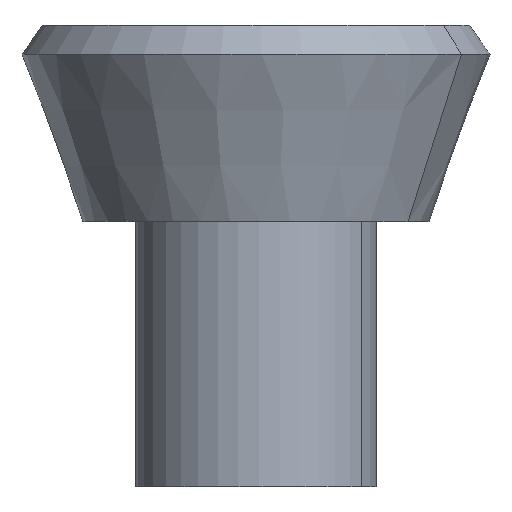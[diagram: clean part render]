
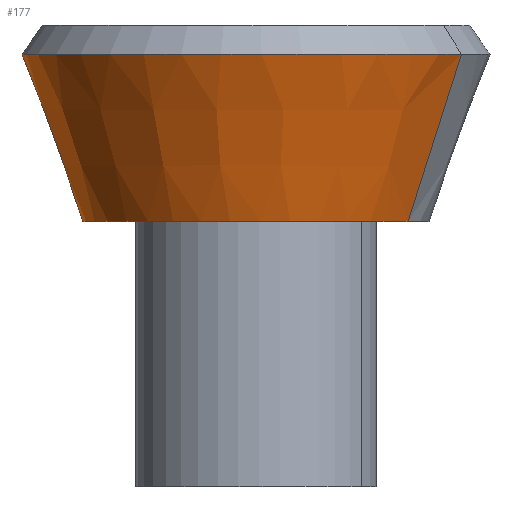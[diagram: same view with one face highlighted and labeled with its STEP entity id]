
A CAD part, top view. The second image highlights one B-rep face of the part: STEP entity #177.
In plain terms, the highlighted conical face has half-angle 20 degrees and reference radius 98 mm.
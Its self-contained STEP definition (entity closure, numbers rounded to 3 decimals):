
#114=CARTESIAN_POINT('Axis2P3D Location',(0.,0.,0.)) ;
#118=CARTESIAN_POINT('Vertex',(86.003,0.,46.984)) ;
#120=CARTESIAN_POINT('Vertex',(-86.003,0.,-46.984)) ;
#147=CARTESIAN_POINT('Axis2P3D Location',(0.,0.,0.)) ;
#152=CARTESIAN_POINT('Line Origine',(101.096,47.25,55.229)) ;
#156=CARTESIAN_POINT('Vertex',(116.188,94.501,63.474)) ;
#159=CARTESIAN_POINT('Axis2P3D Location',(0.,94.501,0.)) ;
#163=CARTESIAN_POINT('Vertex',(-116.188,94.501,-63.474)) ;
#166=CARTESIAN_POINT('Line Origine',(-101.096,47.25,-55.229)) ;
#115=DIRECTION('Axis2P3D Direction',(0.,-1.,0.)) ;
#148=DIRECTION('Axis2P3D Direction',(0.,1.,-0.)) ;
#149=DIRECTION('Axis2P3D XDirection',(0.878,0.,0.479)) ;
#153=DIRECTION('Vector Direction',(0.3,0.94,0.164)) ;
#160=DIRECTION('Axis2P3D Direction',(0.,1.,0.)) ;
#167=DIRECTION('Vector Direction',(-0.3,0.94,-0.164)) ;
#116=AXIS2_PLACEMENT_3D('Circle Axis2P3D',#114,#115,$) ;
#150=AXIS2_PLACEMENT_3D('Cone Axis2P3D',#147,#148,#149) ;
#161=AXIS2_PLACEMENT_3D('Circle Axis2P3D',#159,#160,$) ;
#172=ORIENTED_EDGE('',*,*,#122,.F.) ;
#173=ORIENTED_EDGE('',*,*,#158,.T.) ;
#174=ORIENTED_EDGE('',*,*,#165,.T.) ;
#175=ORIENTED_EDGE('',*,*,#170,.F.) ;
#154=VECTOR('Line Direction',#153,1.) ;
#168=VECTOR('Line Direction',#167,1.) ;
#177=ADVANCED_FACE('PartBody',(#176),#151,.T.) ;
#117=CIRCLE('generated circle',#116,98.) ;
#162=CIRCLE('generated circle',#161,132.395) ;
#151=CONICAL_SURFACE('Cone',#150,98.,0.349) ;
#122=EDGE_CURVE('',#119,#121,#117,.T.) ;
#158=EDGE_CURVE('',#119,#157,#155,.T.) ;
#165=EDGE_CURVE('',#157,#164,#162,.F.) ;
#170=EDGE_CURVE('',#121,#164,#169,.T.) ;
#171=EDGE_LOOP('',(#172,#173,#174,#175)) ;
#176=FACE_OUTER_BOUND('',#171,.T.) ;
#155=LINE('Line',#152,#154) ;
#169=LINE('Line',#166,#168) ;
#119=VERTEX_POINT('',#118) ;
#121=VERTEX_POINT('',#120) ;
#157=VERTEX_POINT('',#156) ;
#164=VERTEX_POINT('',#163) ;
